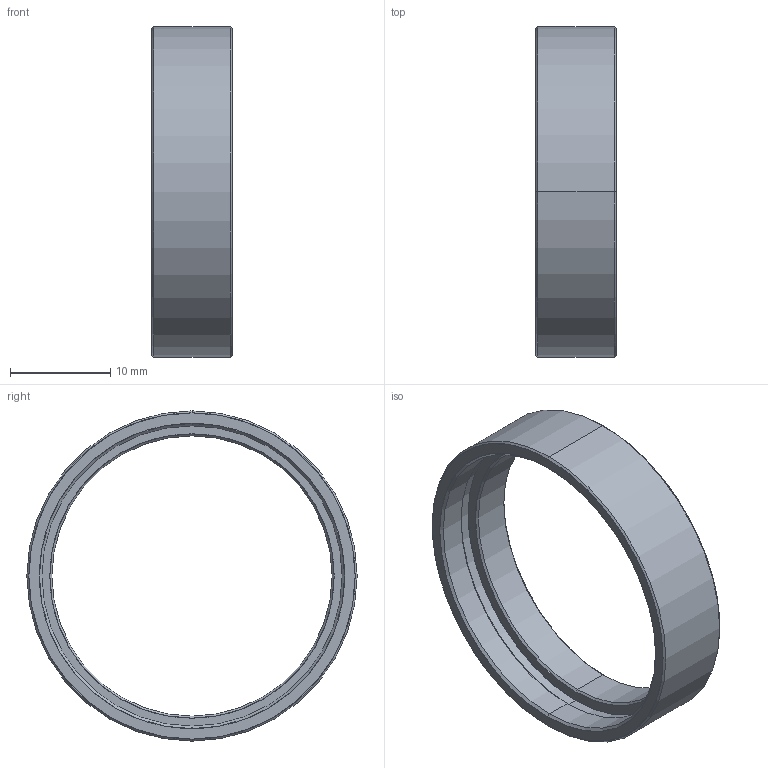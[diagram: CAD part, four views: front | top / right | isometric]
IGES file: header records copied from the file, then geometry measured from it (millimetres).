
Start section: SolidWorks IGES file using analytic representation for surfaces
Global section: file name: \\192.168.200.11\Development\3 製品\1 標準品\07 オプション\04 SV-FAD series\SV-FAD28-305\10.3D外観モデル\VS-FAD28-305.IGS; native system: SolidWorks 2016; preprocessor: SolidWorks 2016; author: miura_vst; date: 160325.091959; units: millimetre
Bounding box: 8 x 33 x 33 mm (x, y, z)
Surface area: 2014.1 mm2 (no closed solid volume)
Topology: 0 solids, 0 shells, 23 faces, 464 edges, 464 vertices
Faces by surface type: revolution 20, bspline 3
